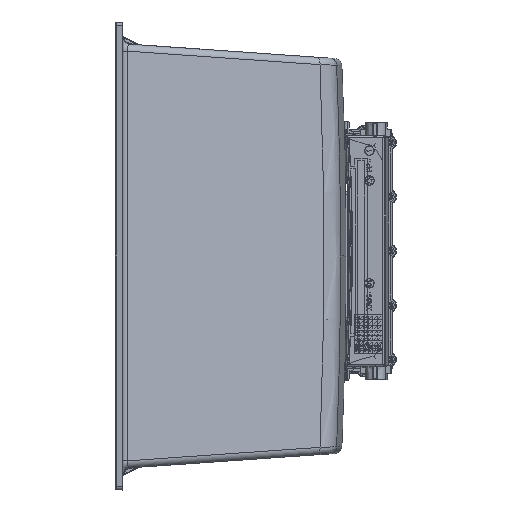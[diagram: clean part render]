
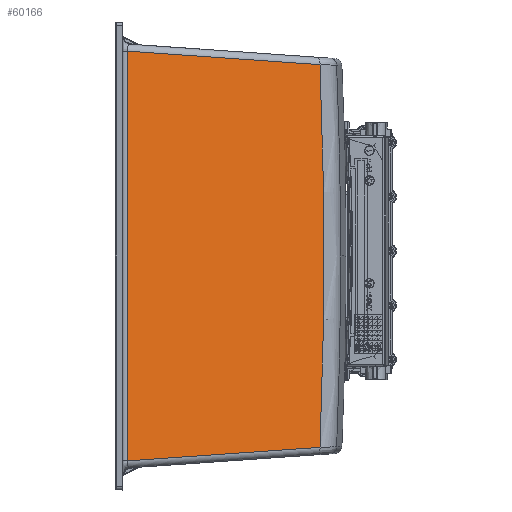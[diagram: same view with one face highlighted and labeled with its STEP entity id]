
A CAD part, left-side view. The second image highlights one B-rep face of the part: STEP entity #60166.
In plain terms, the highlighted planar face has unit normal (-0.906, -0.423, 0).
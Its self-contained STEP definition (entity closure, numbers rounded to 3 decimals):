
#1564 = CARTESIAN_POINT ( 'NONE',  ( 123.136, -221.16, -45.543 ) ) ;
#8752 = EDGE_CURVE ( 'NONE', #139795, #180311, #11695, .T. ) ;
#10688 = CARTESIAN_POINT ( 'NONE',  ( 21.585, -3.381, -35. ) ) ;
#11081 = EDGE_CURVE ( 'NONE', #116685, #158798, #59327, .T. ) ;
#11695 = LINE ( 'NONE', #72204, #79723 ) ;
#13815 = DIRECTION ( 'NONE',  ( -0.906, -0.423, 0. ) ) ;
#22557 = CARTESIAN_POINT ( 'NONE',  ( 123.136, -221.16, -459.457 ) ) ;
#25230 = ORIENTED_EDGE ( 'NONE', *, *, #8752, .T. ) ;
#38970 = CARTESIAN_POINT ( 'NONE',  ( 25.892, -12.619, -35. ) ) ;
#40481 = DIRECTION ( 'NONE',  ( 0.906, 0.423, 0. ) ) ;
#44462 = ORIENTED_EDGE ( 'NONE', *, *, #11081, .T. ) ;
#44593 = CARTESIAN_POINT ( 'NONE',  ( -1736.792, 3767.47, -252.5 ) ) ;
#49939 = EDGE_LOOP ( 'NONE', ( #174787, #25230, #85077, #44462 ) ) ;
#55389 = FACE_OUTER_BOUND ( 'NONE', #49939, .T. ) ;
#59327 = LINE ( 'NONE', #119894, #127662 ) ;
#60166 = ADVANCED_FACE ( 'NONE', ( #55389 ), #115927, .F. ) ;
#72204 = CARTESIAN_POINT ( 'NONE',  ( 23.531, -7.555, -30.607 ) ) ;
#73177 = DIRECTION ( 'NONE',  ( -0.422, 0.904, 0.063 ) ) ;
#79723 = VECTOR ( 'NONE', #73177, 1000. ) ;
#79933 = AXIS2_PLACEMENT_3D ( 'NONE', #44593, #13815, #182472 ) ;
#85077 = ORIENTED_EDGE ( 'NONE', *, *, #118560, .T. ) ;
#90055 = AXIS2_PLACEMENT_3D ( 'NONE', #10688, #40481, #161536 ) ;
#95710 = CIRCLE ( 'NONE', #79933, 4405.83 ) ;
#96604 = DIRECTION ( 'NONE',  ( 0., 0., -1. ) ) ;
#99273 = CARTESIAN_POINT ( 'NONE',  ( 25.892, -12.619, -30.961 ) ) ;
#100273 = CARTESIAN_POINT ( 'NONE',  ( 25.892, -12.619, -474.039 ) ) ;
#115927 = PLANE ( 'NONE',  #90055 ) ;
#116685 = VERTEX_POINT ( 'NONE', #100273 ) ;
#118560 = EDGE_CURVE ( 'NONE', #180311, #116685, #171994, .T. ) ;
#119894 = CARTESIAN_POINT ( 'NONE',  ( 33.314, -28.534, -472.926 ) ) ;
#127662 = VECTOR ( 'NONE', #180371, 1000. ) ;
#139795 = VERTEX_POINT ( 'NONE', #1564 ) ;
#158798 = VERTEX_POINT ( 'NONE', #22557 ) ;
#160438 = EDGE_CURVE ( 'NONE', #158798, #139795, #95710, .T. ) ;
#161536 = DIRECTION ( 'NONE',  ( -0.423, 0.906, 0. ) ) ;
#171994 = LINE ( 'NONE', #38970, #190696 ) ;
#174787 = ORIENTED_EDGE ( 'NONE', *, *, #160438, .T. ) ;
#180311 = VERTEX_POINT ( 'NONE', #99273 ) ;
#180371 = DIRECTION ( 'NONE',  ( 0.422, -0.904, 0.063 ) ) ;
#182472 = DIRECTION ( 'NONE',  ( -0.423, 0.906, 0. ) ) ;
#190696 = VECTOR ( 'NONE', #96604, 1000. ) ;
